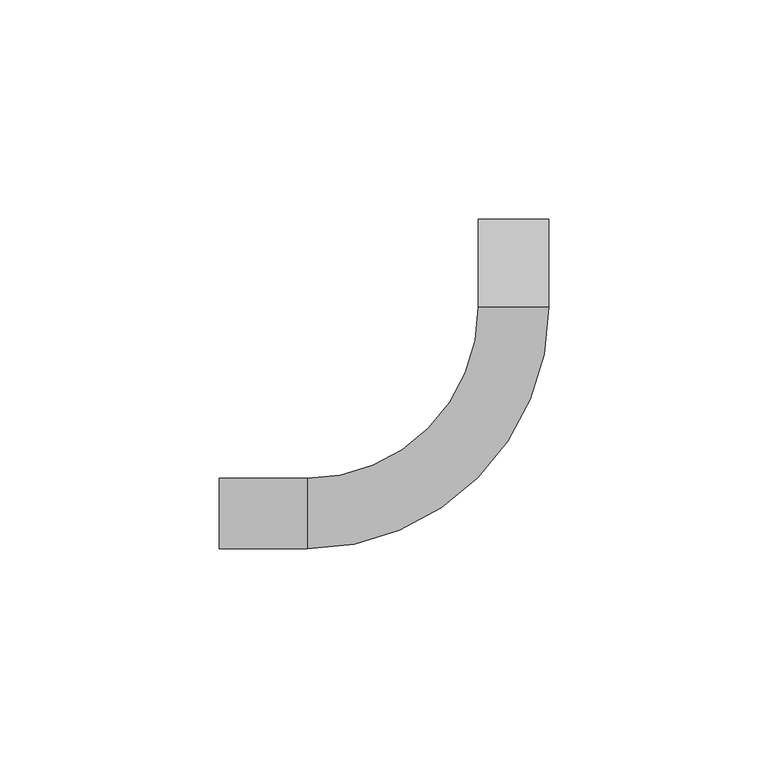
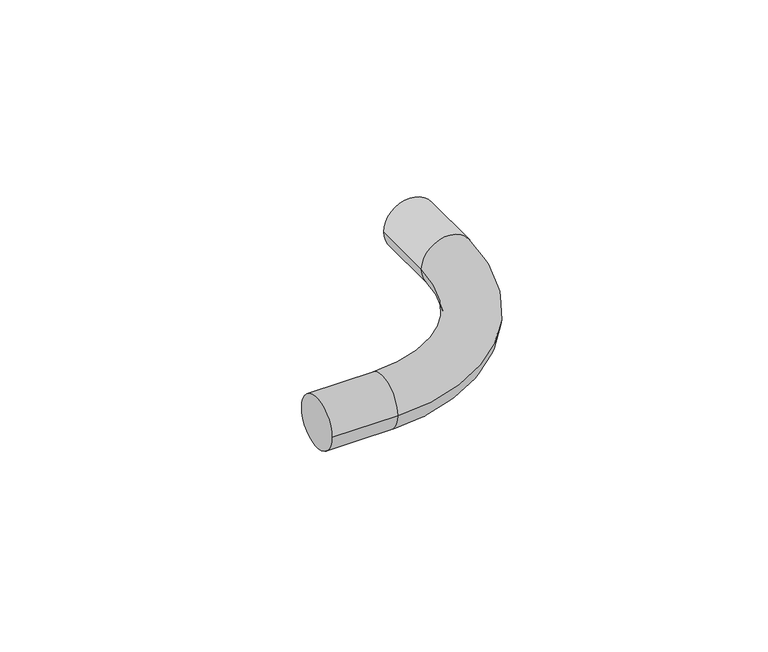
"""IFC4 building model written with IfcOpenShell, lengths in millimetres: cable carrier fitting geometry, Отвод Трубы гладкие жесткие ПВХ : Отвод Трубы гладкие жесткие ПВХ."""

from ifc_helpers import new_model, si_unit, point, frame, origin, place, context, project, spatial, circle_curve, ellipse_curve, trimmed, source, transform, mapped, element, save
from ifc_brep_helpers import plane_surface, cylinder_surface, revolved_surface, advanced_brep


def cable_carrier_fitting_a50456ce(model_context):
    return source(origin(), model_context, "Body", "AdvancedBrep", [
        advanced_brep(
        [(-67.0814, -7.99973, 0.0), (-67.0814, 7.99973, 0.0), (-47.0916, -7.99973, 0.0), (-47.0916, 7.99973, 0.0), (-7.99973, 47.0916, 0.0), (7.99973, 47.0916, 0.0), (7.99973, 67.0814, 0.0), (-7.99973, 67.0814, 0.0)],
        [
            (0, 1, circle_curve(frame((-67.0814, 0.0, 0.0), z_axis=(-1.0, 0.0, 0.0), x_axis=(0.0, 1.0, 0.0)), 7.99973)),
            (1, 0, circle_curve(frame((-67.0814, 0.0, 0.0), z_axis=(-1.0, 0.0, 0.0), x_axis=(0.0, 1.0, 0.0)), 7.99973)),
            (0, 2),
            (2, 3, circle_curve(frame((-47.0916, 0.0, 0.0), z_axis=(-1.0, 0.0, 0.0), x_axis=(0.0, 1.0, 0.0)), 7.99973)),
            (3, 1),
            (3, 2, circle_curve(frame((-47.0916, 0.0, 0.0), z_axis=(-1.0, 0.0, 0.0), x_axis=(0.0, 1.0, 0.0)), 7.99973)),
            (4, 3, circle_curve(frame((-47.0916, 47.0916, 0.0), z_axis=(0.0, 0.0, -1.0), x_axis=(0.0, -1.0, 0.0)), 39.09187)),
            (2, 5, circle_curve(frame((-47.0916, 47.0916, 0.0), z_axis=(0.0, 0.0, 1.0), x_axis=(0.0, -1.0, 0.0)), 55.09133)),
            (5, 4, circle_curve(frame((0.0, 47.0916, 0.0), z_axis=(0.0, -1.0, 0.0), x_axis=(-1.0, 0.0, 0.0)), 7.99973)),
            (4, 5, circle_curve(frame((0.0, 47.0916, 0.0), z_axis=(0.0, -1.0, 0.0), x_axis=(-1.0, 0.0, 0.0)), 7.99973)),
            (6, 7, circle_curve(frame((0.0, 67.0814, 0.0), z_axis=(0.0, 1.0, 0.0), x_axis=(-1.0, 0.0, 0.0)), 7.99973)),
            (7, 6, circle_curve(frame((0.0, 67.0814, 0.0), z_axis=(0.0, 1.0, 0.0), x_axis=(-1.0, 0.0, 0.0)), 7.99973)),
            (5, 6),
            (7, 4),
        ],
        [
            plane_surface(frame((-67.0814, 0.0, 0.0), z_axis=(-1.0, 0.0, 0.0), x_axis=(0.0, 0.0, 1.0))),
            cylinder_surface(frame((-67.0814, 0.0, 0.0), z_axis=(-1.0, 0.0, 0.0), x_axis=(0.0, 1.0, 0.0)), 7.99973),
            revolved_surface(trimmed(ellipse_curve(frame((-47.0916, 0.0, 0.0), z_axis=(-1.0, 0.0, 0.0), x_axis=(0.0, 1.0, 0.0)), 7.99973, 7.99973), [point((-47.0916, -7.99973, 0.0))], [point((-47.0916, 7.99973, 0.0))], True, "CARTESIAN"), (-47.0916, 47.0916, 0.0), (0.0, 0.0, 1.0)),
            revolved_surface(trimmed(ellipse_curve(frame((-47.0916, 0.0, 0.0), z_axis=(-1.0, 0.0, 0.0), x_axis=(0.0, 1.0, 0.0)), 7.99973, 7.99973), [point((-47.0916, 7.99973, 0.0))], [point((-47.0916, -7.99973, 0.0))], True, "CARTESIAN"), (-47.0916, 47.0916, 0.0), (0.0, 0.0, 1.0)),
            plane_surface(frame((0.0, 67.0814, 0.0), z_axis=(0.0, 1.0, 0.0), x_axis=(0.0, 0.0, 1.0))),
            cylinder_surface(frame((0.0, 47.0916, 0.0), z_axis=(0.0, -1.0, 0.0), x_axis=(-1.0, 0.0, 0.0)), 7.99973),
        ],
        [
            (0, [[1, 2]]),
            (1, [[-1, 3, 4, 5]]),
            (1, [[-2, -5, 6, -3]]),
            (2, [[7, -4, 8, 9]]),
            (3, [[-8, -6, -7, 10]]),
            (4, [[11, 12]]),
            (5, [[-9, 13, -12, 14]]),
            (5, [[-10, -14, -11, -13]]),
        ],
    ),
    ])


if __name__ == "__main__":
    model = new_model("IFC4")
    model_context = context("Model", 3, world=origin())
    ifc_project = project(units=[si_unit("LENGTHUNIT", "METRE", prefix="MILLI")], contexts=[model_context])
    site = spatial("IfcSite", under=ifc_project)
    building = spatial("IfcBuilding", under=site)
    placement = place(None, origin())
    cable_carrier_fitting_shape = cable_carrier_fitting_a50456ce(model_context)
    element("IfcCableCarrierFitting", 1, ObjectType="Отвод Трубы гладкие жесткие ПВХ : Отвод Трубы гладкие жесткие ПВХ", at=placement, inside=building, context=model_context, shape_type="MappedRepresentation", body=[
        mapped(cable_carrier_fitting_shape, transform((0.0, 0.0, 0.0), x_axis=(1.0, 0.0, 0.0), y_axis=(0.0, 1.0, 0.0), z_axis=(0.0, 0.0, 1.0))),
    ])
    save(model, "model.ifc")
